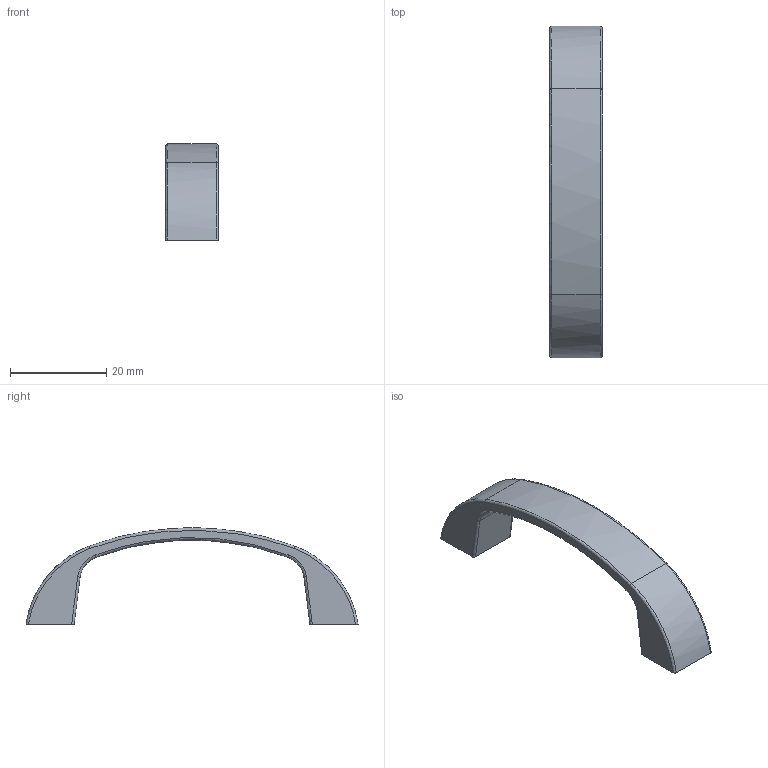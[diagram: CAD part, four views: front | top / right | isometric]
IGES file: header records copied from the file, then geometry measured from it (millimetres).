
Global section: file name: DR_A-D59; native system: Autodesk Inventor 2015; preprocessor: unknown; author: CH.J; date: 20170708.115108; units: millimetre
Bounding box: 11 x 69 x 19.98 mm (x, y, z)
Volume: 3737.8 mm3; surface area: 2679.1 mm2
Topology: 1 solids, 1 shells, 32 faces, 80 edges, 50 vertices
Faces by surface type: bspline 32
